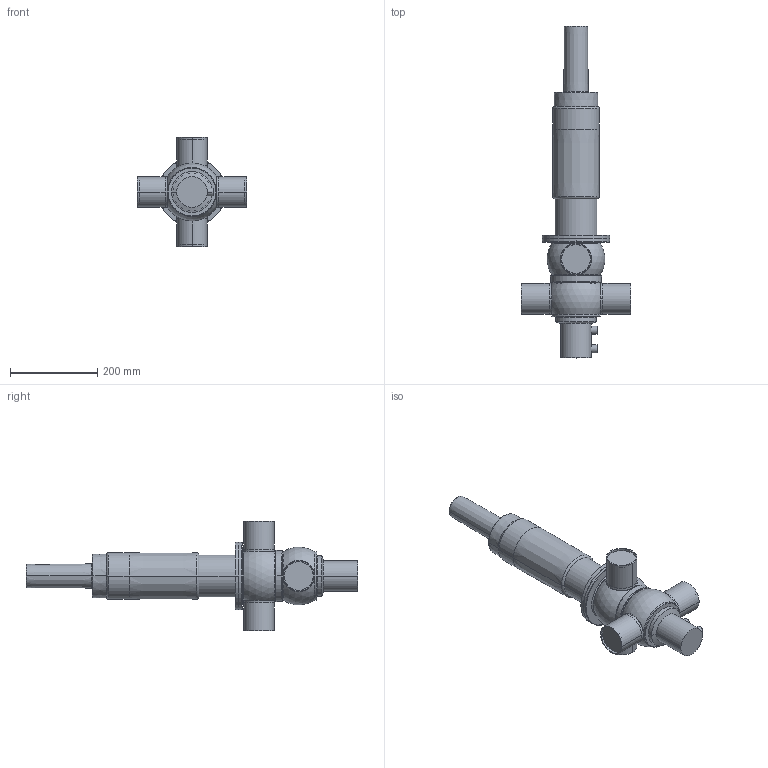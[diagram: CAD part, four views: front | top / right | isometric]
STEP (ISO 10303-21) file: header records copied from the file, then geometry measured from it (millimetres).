
FILE_DESCRIPTION(('Creo Elements/Direct Modeling STEP Export'),'2;1');
FILE_NAME('D44SL-65_prox..stp','2019-09-04T 9:49:57',(''),(''),'PTC Creo Elements/Direct Modeling STEP processor for AP214 (Solid Model)','PTC Creo Elements/Direct Modeling 19.0B 21-Mar-2015 (C) Parametric Technology GmbH','');
FILE_SCHEMA(('AUTOMOTIVE_DESIGN { 1 0 10303 214 1 1 1 1 }'));
Length unit declared in the file: millimetre
Products named in the file (5): D4_Prox._holder.; actuator_D4SL-100_yoke; drain_pipe-62; housing_D44-65; D44SL-65_prox.
Assembly tree (4 placements, depth 2):
  D44SL-65_prox.
    housing_D44-65
    drain_pipe-62
    actuator_D4SL-100_yoke
    D4_Prox._holder.
Bounding box: 250 x 761.35 x 250 mm (x, y, z)
Volume: 6880245.9 mm3; surface area: 410488.5 mm2
Topology: 4 solids, 4 shells, 136 faces, 294 edges, 180 vertices
Faces by surface type: cylinder 50, torus 40, plane 28, cone 14, sphere 4
Entity records: 4762 total; most frequent: CARTESIAN_POINT 1899, ORIENTED_EDGE 588, DIRECTION 576, EDGE_CURVE 294, AXIS2_PLACEMENT_3D 256, VERTEX_POINT 180, EDGE_LOOP 150, FACE_OUTER_BOUND 136
